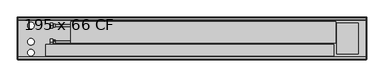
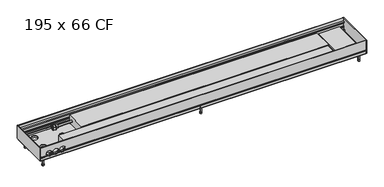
"""IFC4 building model written with IfcOpenShell, lengths in millimetres: proxy geometry, Mohlenhof_Внутрипольный конвектор_QSKM CF : 195 x 66 CF."""

from ifc_helpers import new_model, si_unit, point, frame, frame_2d, origin, place, context, project, spatial, polyline, circle_curve, ellipse_curve, trimmed, segment, composite_curve, outline, extrude, source, transform, mapped, element, save
from ifc_brep_helpers import plane_surface, cylinder_surface, revolved_surface, advanced_brep


def proxy_195_x_66_cf_feebd39c(model_context):
    return source(origin(), model_context, "Body", "SolidModel", [
        extrude(outline(composite_curve([segment(trimmed(circle_curve(frame_2d((0.0, -273.5)), 4.5), [point((-4.5, -273.5))], [point((4.5, -273.5))], False, "CARTESIAN"), True, "CONTINUOUS"), segment(trimmed(circle_curve(frame_2d((0.0, -273.5)), 4.5), [point((4.5, -273.5))], [point((-4.5, -273.5))], False, "CARTESIAN"), True, "CONTINUOUS")], self_intersect=False)), frame((0.0, 0.0, -110.0), z_axis=(0.0, 0.0, 1.0), x_axis=(1.0, 0.0, 0.0)), (0.0, 0.0, 1.0), 7.0),
        extrude(outline(composite_curve([segment(trimmed(circle_curve(frame_2d((0.0, -273.5)), 4.0), [point((-4.0, -273.5))], [point((4.0, -273.5))], False, "CARTESIAN"), True, "CONTINUOUS"), segment(trimmed(circle_curve(frame_2d((0.0, -273.5)), 4.0), [point((4.0, -273.5))], [point((-4.0, -273.5))], False, "CARTESIAN"), True, "CONTINUOUS")], self_intersect=False)), frame((0.0, 0.0, -103.0), z_axis=(0.0, 0.0, 1.0), x_axis=(1.0, 0.0, 0.0)), (0.0, 0.0, 1.0), 32.5),
        extrude(outline(composite_curve([segment(trimmed(circle_curve(frame_2d((0.0, -121.5)), 4.5), [point((-4.5, -121.5))], [point((4.5, -121.5))], False, "CARTESIAN"), True, "CONTINUOUS"), segment(trimmed(circle_curve(frame_2d((0.0, -121.5)), 4.5), [point((4.5, -121.5))], [point((-4.5, -121.5))], False, "CARTESIAN"), True, "CONTINUOUS")], self_intersect=False)), frame((0.0, 0.0, -110.0), z_axis=(0.0, 0.0, 1.0), x_axis=(1.0, 0.0, 0.0)), (0.0, 0.0, 1.0), 7.0),
        extrude(outline(composite_curve([segment(trimmed(circle_curve(frame_2d((0.0, -121.5)), 4.0), [point((-4.0, -121.5))], [point((4.0, -121.5))], False, "CARTESIAN"), True, "CONTINUOUS"), segment(trimmed(circle_curve(frame_2d((0.0, -121.5)), 4.0), [point((4.0, -121.5))], [point((-4.0, -121.5))], False, "CARTESIAN"), True, "CONTINUOUS")], self_intersect=False)), frame((0.0, 0.0, -103.0), z_axis=(0.0, 0.0, 1.0), x_axis=(1.0, 0.0, 0.0)), (0.0, 0.0, 1.0), 32.5),
        advanced_brep(
        [(-639.0, -213.0, -41.0), (-639.0, -201.0, -41.0), (-639.0, -225.0, -41.0), (-626.5, -220.5, -41.0), (-626.5, -205.5, -41.0), (-626.5, -213.0, -41.0), (-634.0, -220.5, -41.0), (-634.0, -205.5, -41.0)],
        [
            (0, 1),
            (1, 2, circle_curve(frame((-639.0, -213.0, -41.0), z_axis=(-1.0, 0.0, 0.0), x_axis=(0.0, 1.0, 0.0)), 12.0)),
            (2, 0),
            (2, 1, circle_curve(frame((-639.0, -213.0, -41.0), z_axis=(-1.0, 0.0, 0.0), x_axis=(0.0, 1.0, 0.0)), 12.0)),
            (3, 4, circle_curve(frame((-626.5, -213.0, -41.0), z_axis=(1.0, 0.0, 0.0), x_axis=(0.0, 1.0, 0.0)), 7.5)),
            (4, 5),
            (5, 3),
            (4, 3, circle_curve(frame((-626.5, -213.0, -41.0), z_axis=(1.0, 0.0, 0.0), x_axis=(0.0, 1.0, 0.0)), 7.5)),
            (6, 7, circle_curve(frame((-634.0, -213.0, -41.0), z_axis=(1.0, 0.0, 0.0), x_axis=(0.0, 1.0, 0.0)), 7.5)),
            (7, 4),
            (3, 6),
            (7, 6, circle_curve(frame((-634.0, -213.0, -41.0), z_axis=(1.0, 0.0, 0.0), x_axis=(0.0, 1.0, 0.0)), 7.5)),
            (1, 7),
            (6, 2),
        ],
        [
            plane_surface(frame((-639.0, -213.0, -41.0), z_axis=(-1.0, 0.0, 0.0), x_axis=(0.0, 1.0, 0.0))),
            plane_surface(frame((-626.5, -213.0, -41.0), z_axis=(1.0, 0.0, 0.0), x_axis=(0.0, 1.0, 0.0))),
            cylinder_surface(frame((-639.0, -213.0, -41.0), z_axis=(-1.0, 0.0, 0.0), x_axis=(0.0, 1.0, 0.0)), 7.5),
            revolved_surface(polyline([(-634.0, -205.5, -41.0), (-639.0, -201.0, -41.0)]), (-639.0, -213.0, -41.0), (-1.0, 0.0, 0.0)),
        ],
        [
            (0, [[1, 2, 3]]),
            (0, [[-3, 4, -1]]),
            (1, [[5, 6, 7]]),
            (1, [[8, -7, -6]]),
            (2, [[9, 10, -5, 11]]),
            (2, [[12, -11, -8, -10]]),
            (3, [[-2, 13, -9, 14]]),
            (3, [[-4, -14, -12, -13]]),
        ],
    ),
        extrude(outline(polyline([(-213.0, -27.1435935), (-201.0, -34.0717968), (-201.0, -47.9282032), (-213.0, -54.8564065), (-225.0, -47.9282032), (-225.0, -34.0717968), (-213.0, -27.1435935)]), holes=[composite_curve([segment(trimmed(circle_curve(frame_2d((-213.0, -41.0)), 8.5), [point((-204.5, -41.0))], [point((-221.5, -41.0))], True, "CARTESIAN"), True, "CONTINUOUS"), segment(trimmed(circle_curve(frame_2d((-213.0, -41.0)), 8.5), [point((-221.5, -41.0))], [point((-204.5, -41.0))], True, "CARTESIAN"), True, "CONTINUOUS")], self_intersect=False)]), frame((-650.0, 0.0, 0.0), z_axis=(1.0, 0.0, 0.0), x_axis=(0.0, 1.0, 0.0)), (0.0, 0.0, 1.0), 11.0),
        advanced_brep(
        [(-639.0, -138.0, -41.0), (-639.0, -126.0, -41.0), (-639.0, -150.0, -41.0), (-626.5, -145.5, -41.0), (-626.5, -130.5, -41.0), (-626.5, -138.0, -41.0), (-634.0, -145.5, -41.0), (-634.0, -130.5, -41.0)],
        [
            (0, 1),
            (1, 2, circle_curve(frame((-639.0, -138.0, -41.0), z_axis=(-1.0, 0.0, 0.0), x_axis=(0.0, 1.0, 0.0)), 12.0)),
            (2, 0),
            (2, 1, circle_curve(frame((-639.0, -138.0, -41.0), z_axis=(-1.0, 0.0, 0.0), x_axis=(0.0, 1.0, 0.0)), 12.0)),
            (3, 4, circle_curve(frame((-626.5, -138.0, -41.0), z_axis=(1.0, 0.0, 0.0), x_axis=(0.0, 1.0, 0.0)), 7.5)),
            (4, 5),
            (5, 3),
            (4, 3, circle_curve(frame((-626.5, -138.0, -41.0), z_axis=(1.0, 0.0, 0.0), x_axis=(0.0, 1.0, 0.0)), 7.5)),
            (6, 7, circle_curve(frame((-634.0, -138.0, -41.0), z_axis=(1.0, 0.0, 0.0), x_axis=(0.0, 1.0, 0.0)), 7.5)),
            (7, 4),
            (3, 6),
            (7, 6, circle_curve(frame((-634.0, -138.0, -41.0), z_axis=(1.0, 0.0, 0.0), x_axis=(0.0, 1.0, 0.0)), 7.5)),
            (1, 7),
            (6, 2),
        ],
        [
            plane_surface(frame((-639.0, -138.0, -41.0), z_axis=(-1.0, 0.0, 0.0), x_axis=(0.0, 1.0, 0.0))),
            plane_surface(frame((-626.5, -138.0, -41.0), z_axis=(1.0, 0.0, 0.0), x_axis=(0.0, 1.0, 0.0))),
            cylinder_surface(frame((-639.0, -138.0, -41.0), z_axis=(-1.0, 0.0, 0.0), x_axis=(0.0, 1.0, 0.0)), 7.5),
            revolved_surface(polyline([(-634.0, -130.5, -41.0), (-639.0, -126.0, -41.0)]), (-639.0, -138.0, -41.0), (-1.0, 0.0, 0.0)),
        ],
        [
            (0, [[1, 2, 3]]),
            (0, [[-3, 4, -1]]),
            (1, [[5, 6, 7]]),
            (1, [[8, -7, -6]]),
            (2, [[9, 10, -5, 11]]),
            (2, [[12, -11, -8, -10]]),
            (3, [[-2, 13, -9, 14]]),
            (3, [[-4, -14, -12, -13]]),
        ],
    ),
        extrude(outline(polyline([(-138.0, -27.1435935), (-126.0, -34.0717968), (-126.0, -47.9282032), (-138.0, -54.8564065), (-150.0, -47.9282032), (-150.0, -34.0717968), (-138.0, -27.1435935)]), holes=[composite_curve([segment(trimmed(circle_curve(frame_2d((-138.0, -41.0)), 8.5), [point((-129.5, -41.0))], [point((-146.5, -41.0))], True, "CARTESIAN"), True, "CONTINUOUS"), segment(trimmed(circle_curve(frame_2d((-138.0, -41.0)), 8.5), [point((-146.5, -41.0))], [point((-129.5, -41.0))], True, "CARTESIAN"), True, "CONTINUOUS")], self_intersect=False)]), frame((-650.0, 0.0, 0.0), z_axis=(1.0, 0.0, 0.0), x_axis=(0.0, 1.0, 0.0)), (0.0, 0.0, 1.0), 11.0),
        extrude(outline(composite_curve([segment(trimmed(circle_curve(frame_2d((-775.0, -273.5)), 4.5), [point((-779.5, -273.5))], [point((-770.5, -273.5))], False, "CARTESIAN"), True, "CONTINUOUS"), segment(trimmed(circle_curve(frame_2d((-775.0, -273.5)), 4.5), [point((-770.5, -273.5))], [point((-779.5, -273.5))], False, "CARTESIAN"), True, "CONTINUOUS")], self_intersect=False)), frame((0.0, 0.0, -110.0), z_axis=(0.0, 0.0, 1.0), x_axis=(1.0, 0.0, 0.0)), (0.0, 0.0, 1.0), 7.0),
        extrude(outline(composite_curve([segment(trimmed(circle_curve(frame_2d((-775.0, -273.5)), 4.0), [point((-779.0, -273.5))], [point((-771.0, -273.5))], False, "CARTESIAN"), True, "CONTINUOUS"), segment(trimmed(circle_curve(frame_2d((-775.0, -273.5)), 4.0), [point((-771.0, -273.5))], [point((-779.0, -273.5))], False, "CARTESIAN"), True, "CONTINUOUS")], self_intersect=False)), frame((0.0, 0.0, -103.0), z_axis=(0.0, 0.0, 1.0), x_axis=(1.0, 0.0, 0.0)), (0.0, 0.0, 1.0), 32.5),
        extrude(outline(composite_curve([segment(trimmed(circle_curve(frame_2d((-775.0, -121.5)), 4.5), [point((-779.5, -121.5))], [point((-770.5, -121.5))], False, "CARTESIAN"), True, "CONTINUOUS"), segment(trimmed(circle_curve(frame_2d((-775.0, -121.5)), 4.5), [point((-770.5, -121.5))], [point((-779.5, -121.5))], False, "CARTESIAN"), True, "CONTINUOUS")], self_intersect=False)), frame((0.0, 0.0, -110.0), z_axis=(0.0, 0.0, 1.0), x_axis=(1.0, 0.0, 0.0)), (0.0, 0.0, 1.0), 7.0),
        extrude(outline(composite_curve([segment(trimmed(circle_curve(frame_2d((-775.0, -121.5)), 4.0), [point((-779.0, -121.5))], [point((-771.0, -121.5))], False, "CARTESIAN"), True, "CONTINUOUS"), segment(trimmed(circle_curve(frame_2d((-775.0, -121.5)), 4.0), [point((-771.0, -121.5))], [point((-779.0, -121.5))], False, "CARTESIAN"), True, "CONTINUOUS")], self_intersect=False)), frame((0.0, 0.0, -103.0), z_axis=(0.0, 0.0, 1.0), x_axis=(1.0, 0.0, 0.0)), (0.0, 0.0, 1.0), 32.5),
        extrude(outline(composite_curve([segment(trimmed(circle_curve(frame_2d((775.0, -273.5)), 4.5), [point((770.5, -273.5))], [point((779.5, -273.5))], False, "CARTESIAN"), True, "CONTINUOUS"), segment(trimmed(circle_curve(frame_2d((775.0, -273.5)), 4.5), [point((779.5, -273.5))], [point((770.5, -273.5))], False, "CARTESIAN"), True, "CONTINUOUS")], self_intersect=False)), frame((0.0, 0.0, -110.0), z_axis=(0.0, 0.0, 1.0), x_axis=(1.0, 0.0, 0.0)), (0.0, 0.0, 1.0), 7.0),
        extrude(outline(composite_curve([segment(trimmed(circle_curve(frame_2d((775.0, -273.5)), 4.0), [point((771.0, -273.5))], [point((779.0, -273.5))], False, "CARTESIAN"), True, "CONTINUOUS"), segment(trimmed(circle_curve(frame_2d((775.0, -273.5)), 4.0), [point((779.0, -273.5))], [point((771.0, -273.5))], False, "CARTESIAN"), True, "CONTINUOUS")], self_intersect=False)), frame((0.0, 0.0, -103.0), z_axis=(0.0, 0.0, 1.0), x_axis=(1.0, 0.0, 0.0)), (0.0, 0.0, 1.0), 32.5),
        extrude(outline(composite_curve([segment(trimmed(circle_curve(frame_2d((775.0, -121.5)), 4.5), [point((770.5, -121.5))], [point((779.5, -121.5))], False, "CARTESIAN"), True, "CONTINUOUS"), segment(trimmed(circle_curve(frame_2d((775.0, -121.5)), 4.5), [point((779.5, -121.5))], [point((770.5, -121.5))], False, "CARTESIAN"), True, "CONTINUOUS")], self_intersect=False)), frame((0.0, 0.0, -110.0), z_axis=(0.0, 0.0, 1.0), x_axis=(1.0, 0.0, 0.0)), (0.0, 0.0, 1.0), 7.0),
        extrude(outline(composite_curve([segment(trimmed(circle_curve(frame_2d((775.0, -121.5)), 4.0), [point((771.0, -121.5))], [point((779.0, -121.5))], False, "CARTESIAN"), True, "CONTINUOUS"), segment(trimmed(circle_curve(frame_2d((775.0, -121.5)), 4.0), [point((779.0, -121.5))], [point((771.0, -121.5))], False, "CARTESIAN"), True, "CONTINUOUS")], self_intersect=False)), frame((0.0, 0.0, -103.0), z_axis=(0.0, 0.0, 1.0), x_axis=(1.0, 0.0, 0.0)), (0.0, 0.0, 1.0), 32.5),
        extrude(outline(polyline([(-62.5, 751.0), (-44.5, 751.0), (-44.5, 760.0), (-29.5, 760.0), (-29.5, 763.0), (-19.5, 763.0), (-19.5, 663.0), (-29.5, 663.0), (-29.5, 666.0), (-62.5, 666.0), (-62.5, 751.0)])), frame((0.0, -267.5, 0.0), z_axis=(0.0, 1.0, 0.0), x_axis=(0.0, 0.0, 1.0)), (0.0, 0.0, 1.0), 140.0),
        extrude(outline(polyline([(650.0, -225.87), (650.0, -277.18), (-670.0, -277.18), (-670.0, -225.87), (650.0, -225.87)])), frame((0.0, 0.0, -62.5), z_axis=(0.0, 0.0, 1.0), x_axis=(1.0, 0.0, 0.0)), (0.0, 0.0, 1.0), 43.62),
        extrude(outline(composite_curve([segment(trimmed(circle_curve(frame_2d((-213.0, -41.0)), 5.0), [point((-218.0, -41.0))], [point((-208.0, -41.0))], False, "CARTESIAN"), True, "CONTINUOUS"), segment(trimmed(circle_curve(frame_2d((-213.0, -41.0)), 5.0), [point((-208.0, -41.0))], [point((-218.0, -41.0))], False, "CARTESIAN"), True, "CONTINUOUS")], self_intersect=False)), frame((-650.0, 0.0, 0.0), z_axis=(1.0, 0.0, 0.0), x_axis=(0.0, 1.0, 0.0)), (0.0, 0.0, 1.0), 95.0),
        extrude(outline(composite_curve([segment(trimmed(circle_curve(frame_2d((-138.0, -41.0)), 5.0), [point((-143.0, -41.0))], [point((-133.0, -41.0))], False, "CARTESIAN"), True, "CONTINUOUS"), segment(trimmed(circle_curve(frame_2d((-138.0, -41.0)), 5.0), [point((-133.0, -41.0))], [point((-143.0, -41.0))], False, "CARTESIAN"), True, "CONTINUOUS")], self_intersect=False)), frame((-650.0, 0.0, 0.0), z_axis=(1.0, 0.0, 0.0), x_axis=(0.0, 1.0, 0.0)), (0.0, 0.0, 1.0), 95.0),
        advanced_brep(
        [(798.0, -295.0, -48.5473602), (798.0, -293.5, -49.2468216), (798.0, -292.5, -49.2468216), (798.0, -292.5, -46.0008038), (798.0, -290.0, -46.0008038), (798.0, -290.0, -56.5008038), (798.0, -292.5, -56.5008038), (798.0, -292.5, -53.2468216), (798.0, -293.5, -53.2468216), (798.0, -295.0, -53.9462831), (798.0, -295.0, -66.5), (798.0, -291.0, -66.5), (798.0, -291.0, -65.2), (798.0, -293.0, -65.2), (798.0, -293.0, -62.5), (798.0, -282.0, -62.5), (798.0, -282.0, -54.9172677), (798.0, -283.4172677, -53.5), (798.0, -287.0, -53.5), (798.0, -287.0, -45.91), (798.0, -289.0, -43.91), (798.0, -289.0, -39.5), (798.0, -290.0, -39.5), (798.0, -290.0, -43.5), (798.0, -292.4956439, -43.5), (798.0, -292.4956439, -23.0), (798.0, -290.0, -23.0), (798.0, -290.0, -27.0), (798.0, -289.0, -27.0), (798.0, -289.0, -17.0), (798.0, -283.3956439, -17.0), (798.0, -283.3956439, -15.0), (798.0, -293.4, -15.0), (798.0, -293.4, 0.0), (798.0, -295.0, 0.0), (-798.0, -295.0, -48.5473602), (-798.0, -295.0, 0.0), (-798.0, -293.4, 0.0), (-798.0, -293.4, -15.0), (-798.0, -283.3956439, -15.0), (-798.0, -283.3956439, -17.0), (-798.0, -289.0, -17.0), (-798.0, -289.0, -27.0), (-798.0, -290.0, -27.0), (-798.0, -290.0, -23.0), (-798.0, -292.4956439, -23.0), (-798.0, -292.4956439, -43.5), (-798.0, -290.0, -43.5), (-798.0, -290.0, -39.5), (-798.0, -289.0, -39.5), (-798.0, -289.0, -43.91), (-798.0, -287.0, -45.91), (-798.0, -287.0, -53.5), (-798.0, -283.4172677, -53.5), (-798.0, -282.0, -54.9172677), (-798.0, -282.0, -62.5), (-798.0, -293.0, -62.5), (-798.0, -293.0, -65.2), (-798.0, -291.0, -65.2), (-798.0, -291.0, -66.5), (-798.0, -295.0, -66.5), (-798.0, -295.0, -53.9462831), (-798.0, -293.5, -53.2468216), (-798.0, -292.5, -53.2468216), (-798.0, -292.5, -56.5008038), (-798.0, -290.0, -56.5008038), (-798.0, -290.0, -46.0008038), (-798.0, -292.5, -46.0008038), (-798.0, -292.5, -49.2468216), (-798.0, -293.5, -49.2468216), (-678.7585985, -295.0, -48.5473602), (-679.155283, -293.5, -49.2468216), (-770.844717, -293.5, -49.2468216), (-771.2414015, -295.0, -48.5473602), (-738.2414015, -295.0, -48.5473602), (-744.7585985, -295.0, -48.5473602), (-745.155283, -293.5, -49.2468216), (-737.844717, -293.5, -49.2468216), (-705.2414015, -295.0, -48.5473602), (-711.7585985, -295.0, -48.5473602), (-712.155283, -293.5, -49.2468216), (-704.844717, -293.5, -49.2468216), (-679.155283, -292.5, -49.2468216), (-770.844717, -292.5, -49.2468216), (-745.155283, -292.5, -49.2468216), (-737.844717, -292.5, -49.2468216), (-712.155283, -292.5, -49.2468216), (-704.844717, -292.5, -49.2468216), (-677.6911648, -292.5, -46.0008038), (-772.3088352, -292.5, -46.0008038), (-743.6911648, -292.5, -46.0008038), (-739.3088352, -292.5, -46.0008038), (-710.6911648, -292.5, -46.0008038), (-706.3088352, -292.5, -46.0008038), (-677.6911648, -290.0, -46.0008038), (-772.3088352, -290.0, -46.0008038), (-743.6911648, -290.0, -46.0008038), (-739.3088352, -290.0, -46.0008038), (-710.6911648, -290.0, -46.0008038), (-706.3088352, -290.0, -46.0008038), (-767.328032, -292.5, -53.2468216), (-748.671968, -292.5, -53.2468216), (-734.328032, -292.5, -53.2468216), (-715.671968, -292.5, -53.2468216), (-701.328032, -292.5, -53.2468216), (-682.671968, -292.5, -53.2468216), (-682.671968, -293.5, -53.2468216), (-767.328032, -293.5, -53.2468216), (-748.671968, -293.5, -53.2468216), (-734.328032, -293.5, -53.2468216), (-715.671968, -293.5, -53.2468216), (-701.328032, -293.5, -53.2468216), (-683.6280208, -295.0, -53.9462831), (-766.3719792, -295.0, -53.9462831), (-749.6280208, -295.0, -53.9462831), (-733.3719792, -295.0, -53.9462831), (-716.6280208, -295.0, -53.9462831), (-700.3719792, -295.0, -53.9462831), (-764.7064841, -282.0, -54.9172677), (-751.2935159, -282.0, -54.9172677), (-731.7064841, -282.0, -54.9172677), (-718.2935159, -282.0, -54.9172677), (-698.7064841, -282.0, -54.9172677), (-685.2935159, -282.0, -54.9172677), (-683.0, -283.4172677, -53.5), (-767.0, -283.4172677, -53.5), (-749.0, -283.4172677, -53.5), (-734.0, -283.4172677, -53.5), (-716.0, -283.4172677, -53.5), (-701.0, -283.4172677, -53.5), (-683.0, -287.0, -53.5), (-767.0, -287.0, -53.5), (-749.0, -287.0, -53.5), (-734.0, -287.0, -53.5), (-716.0, -287.0, -53.5), (-701.0, -287.0, -53.5), (-677.6629187, -287.0, -45.91), (-772.3370813, -287.0, -45.91), (-743.6629187, -287.0, -45.91), (-739.3370813, -287.0, -45.91), (-710.6629187, -287.0, -45.91), (-706.3370813, -287.0, -45.91), (-677.1948691, -289.0, -43.91), (-772.8051309, -289.0, -43.91), (-743.1948691, -289.0, -43.91), (-739.8051309, -289.0, -43.91), (-710.1948691, -289.0, -43.91), (-706.8051309, -289.0, -43.91), (-677.0, -289.0, -41.5), (-677.1339313, -289.0, -39.5), (-772.8660687, -289.0, -39.5), (-773.0, -289.0, -41.5), (-743.0, -289.0, -41.5), (-743.1339313, -289.0, -39.5), (-739.8660687, -289.0, -39.5), (-740.0, -289.0, -41.5), (-710.0, -289.0, -41.5), (-710.1339313, -289.0, -39.5), (-706.8660687, -289.0, -39.5), (-707.0, -289.0, -41.5), (-677.1339313, -290.0, -39.5), (-772.8660687, -290.0, -39.5), (-743.1339313, -290.0, -39.5), (-739.8660687, -290.0, -39.5), (-710.1339313, -290.0, -39.5), (-706.8660687, -290.0, -39.5), (-677.0, -290.0, -41.5), (-677.1339313, -290.0, -43.5), (-772.8660687, -290.0, -43.5), (-773.0, -290.0, -41.5), (-743.0, -290.0, -41.5), (-743.1339313, -290.0, -43.5), (-739.8660687, -290.0, -43.5), (-740.0, -290.0, -41.5), (-710.0, -290.0, -41.5), (-710.1339313, -290.0, -43.5), (-706.8660687, -290.0, -43.5), (-707.0, -290.0, -41.5), (-677.1339313, -292.4956439, -43.5), (-772.8660687, -292.4956439, -43.5), (-743.1339313, -292.4956439, -43.5), (-739.8660687, -292.4956439, -43.5), (-710.1339313, -292.4956439, -43.5), (-706.8660687, -292.4956439, -43.5), (-677.0, -292.4956439, -41.5), (-707.0, -292.4956439, -41.5), (-710.0, -292.4956439, -41.5), (-740.0, -292.4956439, -41.5), (-743.0, -292.4956439, -41.5), (-773.0, -292.4956439, -41.5), (-761.8405729, -290.0, -27.0), (-754.1594271, -290.0, -27.0), (-728.8405729, -290.0, -27.0), (-721.1594271, -290.0, -27.0), (-695.8405729, -290.0, -27.0), (-688.1594271, -290.0, -27.0), (-688.1594271, -289.0, -27.0), (-761.8405729, -289.0, -27.0), (-754.1594271, -289.0, -27.0), (-728.8405729, -289.0, -27.0), (-721.1594271, -289.0, -27.0), (-695.8405729, -289.0, -27.0), (-773.0, -295.0, -41.5), (-743.0, -295.0, -41.5), (-740.0, -295.0, -41.5), (-710.0, -295.0, -41.5), (-707.0, -295.0, -41.5), (-677.0, -295.0, -41.5)],
        [
            (0, 1),
            (1, 2),
            (2, 3),
            (3, 4),
            (4, 5),
            (5, 6),
            (6, 7),
            (7, 8),
            (8, 9),
            (9, 10),
            (10, 11),
            (11, 12),
            (12, 13),
            (13, 14),
            (14, 15),
            (15, 16),
            (16, 17),
            (17, 18),
            (18, 19),
            (19, 20),
            (20, 21),
            (21, 22),
            (22, 23),
            (23, 24),
            (24, 25),
            (25, 26),
            (26, 27),
            (27, 28),
            (28, 29),
            (29, 30),
            (30, 31),
            (31, 32),
            (32, 33),
            (33, 34),
            (34, 0),
            (35, 36),
            (36, 37),
            (37, 38),
            (38, 39),
            (39, 40),
            (40, 41),
            (41, 42),
            (42, 43),
            (43, 44),
            (44, 45),
            (45, 46),
            (46, 47),
            (47, 48),
            (48, 49),
            (49, 50),
            (50, 51),
            (51, 52),
            (52, 53),
            (53, 54),
            (54, 55),
            (55, 56),
            (56, 57),
            (57, 58),
            (58, 59),
            (59, 60),
            (60, 61),
            (61, 62),
            (62, 63),
            (63, 64),
            (64, 65),
            (65, 66),
            (66, 67),
            (67, 68),
            (68, 69),
            (69, 35),
            (0, 70),
            (70, 71, ellipse_curve(frame((-692.0, -310.1131126, -41.5), z_axis=(0.0, 0.42261826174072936, 0.9063077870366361), x_axis=(0.0, -0.906307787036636, 0.4226182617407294)), 35.4930237, 15.0)),
            (71, 1),
            (69, 72),
            (72, 73, ellipse_curve(frame((-758.0, -310.1131126, -41.5), z_axis=(0.0, 0.42261826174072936, 0.9063077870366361), x_axis=(0.0, -0.906307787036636, 0.4226182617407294)), 35.4930237, 15.0)),
            (73, 35),
            (74, 75),
            (75, 76, ellipse_curve(frame((-758.0, -310.1131126, -41.5), z_axis=(0.0, 0.42261826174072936, 0.9063077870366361), x_axis=(0.0, -0.906307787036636, 0.4226182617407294)), 35.4930237, 15.0)),
            (76, 77),
            (77, 74, ellipse_curve(frame((-725.0, -310.1131126, -41.5), z_axis=(0.0, 0.42261826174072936, 0.9063077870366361), x_axis=(0.0, -0.906307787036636, 0.4226182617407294)), 35.4930237, 15.0)),
            (78, 79),
            (79, 80, ellipse_curve(frame((-725.0, -310.1131126, -41.5), z_axis=(0.0, 0.42261826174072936, 0.9063077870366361), x_axis=(0.0, -0.906307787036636, 0.4226182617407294)), 35.4930237, 15.0)),
            (80, 81),
            (81, 78, ellipse_curve(frame((-692.0, -310.1131126, -41.5), z_axis=(0.0, 0.42261826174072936, 0.9063077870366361), x_axis=(0.0, -0.906307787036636, 0.4226182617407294)), 35.4930237, 15.0)),
            (71, 82),
            (82, 2),
            (68, 83),
            (83, 72),
            (76, 84),
            (84, 85),
            (85, 77),
            (80, 86),
            (86, 87),
            (87, 81),
            (82, 88, circle_curve(frame((-692.0, -292.5, -41.5), z_axis=(0.0, -1.0, 0.0), x_axis=(1.0, 0.0, 0.0)), 15.0)),
            (88, 3),
            (67, 89),
            (89, 83, circle_curve(frame((-758.0, -292.5, -41.5), z_axis=(0.0, -1.0, 0.0), x_axis=(1.0, 0.0, 0.0)), 15.0)),
            (84, 90, circle_curve(frame((-758.0, -292.5, -41.5), z_axis=(0.0, -1.0, 0.0), x_axis=(1.0, 0.0, 0.0)), 15.0)),
            (90, 91),
            (91, 85, circle_curve(frame((-725.0, -292.5, -41.5), z_axis=(0.0, -1.0, 0.0), x_axis=(1.0, 0.0, 0.0)), 15.0)),
            (86, 92, circle_curve(frame((-725.0, -292.5, -41.5), z_axis=(0.0, -1.0, 0.0), x_axis=(1.0, 0.0, 0.0)), 15.0)),
            (92, 93),
            (93, 87, circle_curve(frame((-692.0, -292.5, -41.5), z_axis=(0.0, -1.0, 0.0), x_axis=(1.0, 0.0, 0.0)), 15.0)),
            (88, 94),
            (94, 4),
            (66, 95),
            (95, 89),
            (90, 96),
            (96, 97),
            (97, 91),
            (92, 98),
            (98, 99),
            (99, 93),
            (94, 99, circle_curve(frame((-692.0, -290.0, -41.5), z_axis=(0.0, 1.0, 0.0), x_axis=(1.0, 0.0, 0.0)), 15.0)),
            (98, 97, circle_curve(frame((-725.0, -290.0, -41.5), z_axis=(0.0, 1.0, 0.0), x_axis=(1.0, 0.0, 0.0)), 15.0)),
            (96, 95, circle_curve(frame((-758.0, -290.0, -41.5), z_axis=(0.0, 1.0, 0.0), x_axis=(1.0, 0.0, 0.0)), 15.0)),
            (65, 5),
            (64, 6),
            (63, 100),
            (100, 101, circle_curve(frame((-758.0, -292.5, -41.5), z_axis=(0.0, -1.0, 0.0), x_axis=(1.0, 0.0, 0.0)), 15.0)),
            (101, 102),
            (102, 103, circle_curve(frame((-725.0, -292.5, -41.5), z_axis=(0.0, -1.0, 0.0), x_axis=(1.0, 0.0, 0.0)), 15.0)),
            (103, 104),
            (104, 105, circle_curve(frame((-692.0, -292.5, -41.5), z_axis=(0.0, -1.0, 0.0), x_axis=(1.0, 0.0, 0.0)), 15.0)),
            (105, 7),
            (105, 106),
            (106, 8),
            (62, 107),
            (107, 100),
            (101, 108),
            (108, 109),
            (109, 102),
            (103, 110),
            (110, 111),
            (111, 104),
            (106, 112, ellipse_curve(frame((-692.0, -268.3088597, -41.5), z_axis=(0.0, 0.4226182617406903, -0.9063077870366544), x_axis=(0.0, -0.9063077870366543, -0.42261826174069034)), 35.4930237, 15.0)),
            (112, 9),
            (61, 113),
            (113, 107, ellipse_curve(frame((-758.0, -268.3088597, -41.5), z_axis=(0.0, 0.4226182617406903, -0.9063077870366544), x_axis=(0.0, -0.9063077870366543, -0.42261826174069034)), 35.4930237, 15.0)),
            (108, 114, ellipse_curve(frame((-758.0, -268.3088597, -41.5), z_axis=(0.0, 0.4226182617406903, -0.9063077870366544), x_axis=(0.0, -0.9063077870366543, -0.42261826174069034)), 35.4930237, 15.0)),
            (114, 115),
            (115, 109, ellipse_curve(frame((-725.0, -268.3088597, -41.5), z_axis=(0.0, 0.4226182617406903, -0.9063077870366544), x_axis=(0.0, -0.9063077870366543, -0.42261826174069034)), 35.4930237, 15.0)),
            (110, 116, ellipse_curve(frame((-725.0, -268.3088597, -41.5), z_axis=(0.0, 0.4226182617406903, -0.9063077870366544), x_axis=(0.0, -0.9063077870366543, -0.42261826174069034)), 35.4930237, 15.0)),
            (116, 117),
            (117, 111, ellipse_curve(frame((-692.0, -268.3088597, -41.5), z_axis=(0.0, 0.4226182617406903, -0.9063077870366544), x_axis=(0.0, -0.9063077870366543, -0.42261826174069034)), 35.4930237, 15.0)),
            (112, 117, circle_curve(frame((-692.0, -295.0, -41.5), z_axis=(0.0, 1.0, 0.0), x_axis=(1.0, 0.0, 0.0)), 15.0)),
            (116, 115, circle_curve(frame((-725.0, -295.0, -41.5), z_axis=(0.0, 1.0, 0.0), x_axis=(1.0, 0.0, 0.0)), 15.0)),
            (114, 113, circle_curve(frame((-758.0, -295.0, -41.5), z_axis=(0.0, 1.0, 0.0), x_axis=(1.0, 0.0, 0.0)), 15.0)),
            (60, 10),
            (59, 11),
            (58, 12),
            (57, 13),
            (56, 14),
            (55, 15),
            (54, 118),
            (118, 119, circle_curve(frame((-758.0, -282.0, -41.5), z_axis=(0.0, -1.0, 0.0), x_axis=(1.0, 0.0, 0.0)), 15.0)),
            (119, 120),
            (120, 121, circle_curve(frame((-725.0, -282.0, -41.5), z_axis=(0.0, -1.0, 0.0), x_axis=(1.0, 0.0, 0.0)), 15.0)),
            (121, 122),
            (122, 123, circle_curve(frame((-692.0, -282.0, -41.5), z_axis=(0.0, -1.0, 0.0), x_axis=(1.0, 0.0, 0.0)), 15.0)),
            (123, 16),
            (123, 124, ellipse_curve(frame((-692.0, -295.4172677, -41.5), z_axis=(0.0, -0.7071067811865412, -0.7071067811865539), x_axis=(0.0, -0.7071067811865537, 0.7071067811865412)), 21.2132034, 15.0)),
            (124, 17),
            (53, 125),
            (125, 118, ellipse_curve(frame((-758.0, -295.4172677, -41.5), z_axis=(0.0, -0.7071067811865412, -0.7071067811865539), x_axis=(0.0, -0.7071067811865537, 0.7071067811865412)), 21.2132034, 15.0)),
            (119, 126, ellipse_curve(frame((-758.0, -295.4172677, -41.5), z_axis=(0.0, -0.7071067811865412, -0.7071067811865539), x_axis=(0.0, -0.7071067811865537, 0.7071067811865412)), 21.2132034, 15.0)),
            (126, 127),
            (127, 120, ellipse_curve(frame((-725.0, -295.4172677, -41.5), z_axis=(0.0, -0.7071067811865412, -0.7071067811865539), x_axis=(0.0, -0.7071067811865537, 0.7071067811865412)), 21.2132034, 15.0)),
            (121, 128, ellipse_curve(frame((-725.0, -295.4172677, -41.5), z_axis=(0.0, -0.7071067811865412, -0.7071067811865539), x_axis=(0.0, -0.7071067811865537, 0.7071067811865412)), 21.2132034, 15.0)),
            (128, 129),
            (129, 122, ellipse_curve(frame((-692.0, -295.4172677, -41.5), z_axis=(0.0, -0.7071067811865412, -0.7071067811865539), x_axis=(0.0, -0.7071067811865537, 0.7071067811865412)), 21.2132034, 15.0)),
            (124, 130),
            (130, 18),
            (52, 131),
            (131, 125),
            (126, 132),
            (132, 133),
            (133, 127),
            (128, 134),
            (134, 135),
            (135, 129),
            (130, 136, circle_curve(frame((-692.0, -287.0, -41.5), z_axis=(0.0, -1.0, 0.0), x_axis=(1.0, 0.0, 0.0)), 15.0)),
            (136, 19),
            (51, 137),
            (137, 131, circle_curve(frame((-758.0, -287.0, -41.5), z_axis=(0.0, -1.0, 0.0), x_axis=(1.0, 0.0, 0.0)), 15.0)),
            (132, 138, circle_curve(frame((-758.0, -287.0, -41.5), z_axis=(0.0, -1.0, 0.0), x_axis=(1.0, 0.0, 0.0)), 15.0)),
            (138, 139),
            (139, 133, circle_curve(frame((-725.0, -287.0, -41.5), z_axis=(0.0, -1.0, 0.0), x_axis=(1.0, 0.0, 0.0)), 15.0)),
            (134, 140, circle_curve(frame((-725.0, -287.0, -41.5), z_axis=(0.0, -1.0, 0.0), x_axis=(1.0, 0.0, 0.0)), 15.0)),
            (140, 141),
            (141, 135, circle_curve(frame((-692.0, -287.0, -41.5), z_axis=(0.0, -1.0, 0.0), x_axis=(1.0, 0.0, 0.0)), 15.0)),
            (136, 142, ellipse_curve(frame((-692.0, -291.41, -41.5), z_axis=(0.0, -0.7071067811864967, -0.7071067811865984), x_axis=(0.0, -0.7071067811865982, 0.7071067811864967)), 21.2132034, 15.0)),
            (142, 20),
            (50, 143),
            (143, 137, ellipse_curve(frame((-758.0, -291.41, -41.5), z_axis=(0.0, -0.7071067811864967, -0.7071067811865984), x_axis=(0.0, -0.7071067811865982, 0.7071067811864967)), 21.2132034, 15.0)),
            (138, 144, ellipse_curve(frame((-758.0, -291.41, -41.5), z_axis=(0.0, -0.7071067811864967, -0.7071067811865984), x_axis=(0.0, -0.7071067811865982, 0.7071067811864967)), 21.2132034, 15.0)),
            (144, 145),
            (145, 139, ellipse_curve(frame((-725.0, -291.41, -41.5), z_axis=(0.0, -0.7071067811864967, -0.7071067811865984), x_axis=(0.0, -0.7071067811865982, 0.7071067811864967)), 21.2132034, 15.0)),
            (140, 146, ellipse_curve(frame((-725.0, -291.41, -41.5), z_axis=(0.0, -0.7071067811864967, -0.7071067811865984), x_axis=(0.0, -0.7071067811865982, 0.7071067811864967)), 21.2132034, 15.0)),
            (146, 147),
            (147, 141, ellipse_curve(frame((-692.0, -291.41, -41.5), z_axis=(0.0, -0.7071067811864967, -0.7071067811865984), x_axis=(0.0, -0.7071067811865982, 0.7071067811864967)), 21.2132034, 15.0)),
            (142, 148, circle_curve(frame((-692.0, -289.0, -41.5), z_axis=(0.0, -1.0, 0.0), x_axis=(1.0, 0.0, 0.0)), 15.0)),
            (148, 149, circle_curve(frame((-692.0, -289.0, -41.5), z_axis=(0.0, -1.0, 0.0), x_axis=(1.0, 0.0, 0.0)), 15.0)),
            (149, 21),
            (49, 150),
            (150, 151, circle_curve(frame((-758.0, -289.0, -41.5), z_axis=(0.0, -1.0, 0.0), x_axis=(1.0, 0.0, 0.0)), 15.0)),
            (151, 143, circle_curve(frame((-758.0, -289.0, -41.5), z_axis=(0.0, -1.0, 0.0), x_axis=(1.0, 0.0, 0.0)), 15.0)),
            (144, 152, circle_curve(frame((-758.0, -289.0, -41.5), z_axis=(0.0, -1.0, 0.0), x_axis=(1.0, 0.0, 0.0)), 15.0)),
            (152, 153, circle_curve(frame((-758.0, -289.0, -41.5), z_axis=(0.0, -1.0, 0.0), x_axis=(1.0, 0.0, 0.0)), 15.0)),
            (153, 154),
            (154, 155, circle_curve(frame((-725.0, -289.0, -41.5), z_axis=(0.0, -1.0, 0.0), x_axis=(1.0, 0.0, 0.0)), 15.0)),
            (155, 145, circle_curve(frame((-725.0, -289.0, -41.5), z_axis=(0.0, -1.0, 0.0), x_axis=(1.0, 0.0, 0.0)), 15.0)),
            (146, 156, circle_curve(frame((-725.0, -289.0, -41.5), z_axis=(0.0, -1.0, 0.0), x_axis=(1.0, 0.0, 0.0)), 15.0)),
            (156, 157, circle_curve(frame((-725.0, -289.0, -41.5), z_axis=(0.0, -1.0, 0.0), x_axis=(1.0, 0.0, 0.0)), 15.0)),
            (157, 158),
            (158, 159, circle_curve(frame((-692.0, -289.0, -41.5), z_axis=(0.0, -1.0, 0.0), x_axis=(1.0, 0.0, 0.0)), 15.0)),
            (159, 147, circle_curve(frame((-692.0, -289.0, -41.5), z_axis=(0.0, -1.0, 0.0), x_axis=(1.0, 0.0, 0.0)), 15.0)),
            (149, 160),
            (160, 22),
            (48, 161),
            (161, 150),
            (153, 162),
            (162, 163),
            (163, 154),
            (157, 164),
            (164, 165),
            (165, 158),
            (160, 166, circle_curve(frame((-692.0, -290.0, -41.5), z_axis=(0.0, 1.0, 0.0), x_axis=(1.0, 0.0, 0.0)), 15.0)),
            (166, 167, circle_curve(frame((-692.0, -290.0, -41.5), z_axis=(0.0, 1.0, 0.0), x_axis=(1.0, 0.0, 0.0)), 15.0)),
            (167, 23),
            (47, 168),
            (168, 169, circle_curve(frame((-758.0, -290.0, -41.5), z_axis=(0.0, 1.0, 0.0), x_axis=(1.0, 0.0, 0.0)), 15.0)),
            (169, 161, circle_curve(frame((-758.0, -290.0, -41.5), z_axis=(0.0, 1.0, 0.0), x_axis=(1.0, 0.0, 0.0)), 15.0)),
            (162, 170, circle_curve(frame((-758.0, -290.0, -41.5), z_axis=(0.0, 1.0, 0.0), x_axis=(1.0, 0.0, 0.0)), 15.0)),
            (170, 171, circle_curve(frame((-758.0, -290.0, -41.5), z_axis=(0.0, 1.0, 0.0), x_axis=(1.0, 0.0, 0.0)), 15.0)),
            (171, 172),
            (172, 173, circle_curve(frame((-725.0, -290.0, -41.5), z_axis=(0.0, 1.0, 0.0), x_axis=(1.0, 0.0, 0.0)), 15.0)),
            (173, 163, circle_curve(frame((-725.0, -290.0, -41.5), z_axis=(0.0, 1.0, 0.0), x_axis=(1.0, 0.0, 0.0)), 15.0)),
            (164, 174, circle_curve(frame((-725.0, -290.0, -41.5), z_axis=(0.0, 1.0, 0.0), x_axis=(1.0, 0.0, 0.0)), 15.0)),
            (174, 175, circle_curve(frame((-725.0, -290.0, -41.5), z_axis=(0.0, 1.0, 0.0), x_axis=(1.0, 0.0, 0.0)), 15.0)),
            (175, 176),
            (176, 177, circle_curve(frame((-692.0, -290.0, -41.5), z_axis=(0.0, 1.0, 0.0), x_axis=(1.0, 0.0, 0.0)), 15.0)),
            (177, 165, circle_curve(frame((-692.0, -290.0, -41.5), z_axis=(0.0, 1.0, 0.0), x_axis=(1.0, 0.0, 0.0)), 15.0)),
            (167, 178),
            (178, 24),
            (46, 179),
            (179, 168),
            (171, 180),
            (180, 181),
            (181, 172),
            (175, 182),
            (182, 183),
            (183, 176),
            (178, 184, circle_curve(frame((-692.0, -292.4956439, -41.5), z_axis=(0.0, -1.0, 0.0), x_axis=(1.0, 0.0, 0.0)), 15.0)),
            (184, 185, circle_curve(frame((-692.0, -292.4956439, -41.5), z_axis=(0.0, -1.0, 0.0), x_axis=(1.0, 0.0, 0.0)), 15.0)),
            (185, 183, circle_curve(frame((-692.0, -292.4956439, -41.5), z_axis=(0.0, -1.0, 0.0), x_axis=(1.0, 0.0, 0.0)), 15.0)),
            (182, 186, circle_curve(frame((-725.0, -292.4956439, -41.5), z_axis=(0.0, -1.0, 0.0), x_axis=(1.0, 0.0, 0.0)), 15.0)),
            (186, 187, circle_curve(frame((-725.0, -292.4956439, -41.5), z_axis=(0.0, -1.0, 0.0), x_axis=(1.0, 0.0, 0.0)), 15.0)),
            (187, 181, circle_curve(frame((-725.0, -292.4956439, -41.5), z_axis=(0.0, -1.0, 0.0), x_axis=(1.0, 0.0, 0.0)), 15.0)),
            (180, 188, circle_curve(frame((-758.0, -292.4956439, -41.5), z_axis=(0.0, -1.0, 0.0), x_axis=(1.0, 0.0, 0.0)), 15.0)),
            (188, 189, circle_curve(frame((-758.0, -292.4956439, -41.5), z_axis=(0.0, -1.0, 0.0), x_axis=(1.0, 0.0, 0.0)), 15.0)),
            (189, 179, circle_curve(frame((-758.0, -292.4956439, -41.5), z_axis=(0.0, -1.0, 0.0), x_axis=(1.0, 0.0, 0.0)), 15.0)),
            (45, 25),
            (44, 26),
            (43, 190),
            (190, 191, circle_curve(frame((-758.0, -290.0, -41.5), z_axis=(0.0, 1.0, 0.0), x_axis=(1.0, 0.0, 0.0)), 15.0)),
            (191, 192),
            (192, 193, circle_curve(frame((-725.0, -290.0, -41.5), z_axis=(0.0, 1.0, 0.0), x_axis=(1.0, 0.0, 0.0)), 15.0)),
            (193, 194),
            (194, 195, circle_curve(frame((-692.0, -290.0, -41.5), z_axis=(0.0, 1.0, 0.0), x_axis=(1.0, 0.0, 0.0)), 15.0)),
            (195, 27),
            (195, 196),
            (196, 28),
            (42, 197),
            (197, 190),
            (191, 198),
            (198, 199),
            (199, 192),
            (193, 200),
            (200, 201),
            (201, 194),
            (196, 201, circle_curve(frame((-692.0, -289.0, -41.5), z_axis=(0.0, -1.0, 0.0), x_axis=(1.0, 0.0, 0.0)), 15.0)),
            (200, 199, circle_curve(frame((-725.0, -289.0, -41.5), z_axis=(0.0, -1.0, 0.0), x_axis=(1.0, 0.0, 0.0)), 15.0)),
            (198, 197, circle_curve(frame((-758.0, -289.0, -41.5), z_axis=(0.0, -1.0, 0.0), x_axis=(1.0, 0.0, 0.0)), 15.0)),
            (41, 29),
            (40, 30),
            (39, 31),
            (38, 32),
            (37, 33),
            (36, 34),
            (73, 202, circle_curve(frame((-758.0, -295.0, -41.5), z_axis=(0.0, 1.0, 0.0), x_axis=(1.0, 0.0, 0.0)), 15.0)),
            (202, 203, circle_curve(frame((-758.0, -295.0, -41.5), z_axis=(0.0, 1.0, 0.0), x_axis=(1.0, 0.0, 0.0)), 15.0)),
            (203, 75, circle_curve(frame((-758.0, -295.0, -41.5), z_axis=(0.0, 1.0, 0.0), x_axis=(1.0, 0.0, 0.0)), 15.0)),
            (74, 204, circle_curve(frame((-725.0, -295.0, -41.5), z_axis=(0.0, 1.0, 0.0), x_axis=(1.0, 0.0, 0.0)), 15.0)),
            (204, 205, circle_curve(frame((-725.0, -295.0, -41.5), z_axis=(0.0, 1.0, 0.0), x_axis=(1.0, 0.0, 0.0)), 15.0)),
            (205, 79, circle_curve(frame((-725.0, -295.0, -41.5), z_axis=(0.0, 1.0, 0.0), x_axis=(1.0, 0.0, 0.0)), 15.0)),
            (78, 206, circle_curve(frame((-692.0, -295.0, -41.5), z_axis=(0.0, 1.0, 0.0), x_axis=(1.0, 0.0, 0.0)), 15.0)),
            (206, 207, circle_curve(frame((-692.0, -295.0, -41.5), z_axis=(0.0, 1.0, 0.0), x_axis=(1.0, 0.0, 0.0)), 15.0)),
            (207, 70, circle_curve(frame((-692.0, -295.0, -41.5), z_axis=(0.0, 1.0, 0.0), x_axis=(1.0, 0.0, 0.0)), 15.0)),
            (151, 169),
            (189, 202),
            (203, 188),
            (170, 152),
            (155, 173),
            (187, 204),
            (205, 186),
            (174, 156),
            (159, 177),
            (185, 206),
            (207, 184),
            (166, 148),
        ],
        [
            plane_surface(frame((798.0, -293.0, -62.5), z_axis=(1.0, 0.0, 0.0), x_axis=(0.0, 0.0, 1.0))),
            plane_surface(frame((-798.0, -293.0, -62.5), z_axis=(-1.0, 0.0, 0.0), x_axis=(0.0, 0.0, 1.0))),
            plane_surface(frame((798.0, -295.0, -48.5473602), z_axis=(0.0, -0.42261826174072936, -0.9063077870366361), x_axis=(-1.0, 0.0, 0.0))),
            plane_surface(frame((798.0, -293.5, -49.2468216), z_axis=(0.0, 0.0, -1.0), x_axis=(-1.0, 0.0, 0.0))),
            plane_surface(frame((798.0, -292.5, -49.2468216), z_axis=(0.0, 1.0, 0.0), x_axis=(-1.0, 0.0, 0.0))),
            plane_surface(frame((798.0, -292.5, -46.0008038), z_axis=(0.0, 0.0, -1.0), x_axis=(-1.0, 0.0, 0.0))),
            plane_surface(frame((798.0, -290.0, -46.0008038), z_axis=(0.0, -1.0, 0.0), x_axis=(-1.0, 0.0, 0.0))),
            plane_surface(frame((798.0, -290.0, -56.5008038), z_axis=(0.0, 0.0, 1.0), x_axis=(-1.0, 0.0, 0.0))),
            plane_surface(frame((798.0, -292.5, -56.5008038), z_axis=(0.0, 1.0, 0.0), x_axis=(-1.0, 0.0, 0.0))),
            plane_surface(frame((798.0, -292.5, -53.2468216), z_axis=(0.0, 0.0, 1.0), x_axis=(-1.0, 0.0, 0.0))),
            plane_surface(frame((798.0, -293.5, -53.2468216), z_axis=(0.0, -0.4226182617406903, 0.9063077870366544), x_axis=(-1.0, 0.0, 0.0))),
            plane_surface(frame((798.0, -295.0, -53.9462831), z_axis=(0.0, -1.0, 0.0), x_axis=(-1.0, 0.0, 0.0))),
            plane_surface(frame((798.0, -295.0, -66.5), z_axis=(0.0, 0.0, -1.0), x_axis=(-1.0, 0.0, 0.0))),
            plane_surface(frame((798.0, -291.0, -66.5), z_axis=(0.0, 1.0, 0.0), x_axis=(-1.0, 0.0, 0.0))),
            plane_surface(frame((798.0, -291.0, -65.2), z_axis=(0.0, 0.0, 1.0), x_axis=(-1.0, 0.0, 0.0))),
            plane_surface(frame((798.0, -293.0, -65.2), z_axis=(0.0, 1.0, 0.0), x_axis=(-1.0, 0.0, 0.0))),
            plane_surface(frame((798.0, -293.0, -62.5), z_axis=(0.0, 0.0, -1.0), x_axis=(-1.0, 0.0, 0.0))),
            plane_surface(frame((798.0, -282.0, -62.5), z_axis=(0.0, 1.0, 0.0), x_axis=(-1.0, 0.0, 0.0))),
            plane_surface(frame((798.0, -282.0, -54.9172677), z_axis=(0.0, 0.7071067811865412, 0.7071067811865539), x_axis=(-1.0, 0.0, 0.0))),
            plane_surface(frame((798.0, -283.4172677, -53.5), z_axis=(0.0, 0.0, 1.0), x_axis=(-1.0, 0.0, 0.0))),
            plane_surface(frame((798.0, -287.0, -53.5), z_axis=(0.0, 1.0, 0.0), x_axis=(-1.0, 0.0, 0.0))),
            plane_surface(frame((798.0, -287.0, -45.91), z_axis=(0.0, 0.7071067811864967, 0.7071067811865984), x_axis=(-1.0, 0.0, 0.0))),
            plane_surface(frame((798.0, -289.0, -43.91), z_axis=(0.0, 1.0, 0.0), x_axis=(-1.0, 0.0, 0.0))),
            plane_surface(frame((798.0, -289.0, -39.5), z_axis=(0.0, 0.0, 1.0), x_axis=(-1.0, 0.0, 0.0))),
            plane_surface(frame((798.0, -290.0, -39.5), z_axis=(0.0, -1.0, 0.0), x_axis=(-1.0, 0.0, 0.0))),
            plane_surface(frame((798.0, -290.0, -43.5), z_axis=(0.0, 0.0, 1.0), x_axis=(-1.0, 0.0, 0.0))),
            plane_surface(frame((798.0, -292.4956439, -43.5), z_axis=(0.0, 1.0, 0.0), x_axis=(-1.0, 0.0, 0.0))),
            plane_surface(frame((798.0, -292.4956439, -23.0), z_axis=(0.0, 0.0, -1.0), x_axis=(-1.0, 0.0, 0.0))),
            plane_surface(frame((798.0, -290.0, -23.0), z_axis=(0.0, -1.0, 0.0), x_axis=(-1.0, 0.0, 0.0))),
            plane_surface(frame((798.0, -290.0, -27.0), z_axis=(0.0, 0.0, -1.0), x_axis=(-1.0, 0.0, 0.0))),
            plane_surface(frame((798.0, -289.0, -27.0), z_axis=(0.0, 1.0, 0.0), x_axis=(-1.0, 0.0, 0.0))),
            plane_surface(frame((798.0, -289.0, -17.0), z_axis=(0.0, 0.0, -1.0), x_axis=(-1.0, 0.0, 0.0))),
            plane_surface(frame((798.0, -283.3956439, -17.0), z_axis=(0.0, 1.0, 0.0), x_axis=(-1.0, 0.0, 0.0))),
            plane_surface(frame((798.0, -283.3956439, -15.0), z_axis=(0.0, 0.0, 1.0), x_axis=(-1.0, 0.0, 0.0))),
            plane_surface(frame((798.0, -293.4, -15.0), z_axis=(0.0, 1.0, 0.0), x_axis=(-1.0, 0.0, 0.0))),
            plane_surface(frame((798.0, -293.4, 0.0), z_axis=(0.0, 0.0, 1.0), x_axis=(-1.0, 0.0, 0.0))),
            plane_surface(frame((798.0, -295.0, 0.0), z_axis=(0.0, -1.0, 0.0), x_axis=(-1.0, 0.0, 0.0))),
            revolved_surface(polyline([(-743.0, -300.47646346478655, -41.5), (-743.0, -236.1412559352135, -41.5)]), (-758.0, -263.0, -41.5), (0.0, -1.0, 0.0)),
            revolved_surface(polyline([(-743.0, -342.2807163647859, -41.5), (-743.0, -276.41000002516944, -41.5)]), (-758.0, -263.0, -41.5), (0.0, -1.0, 0.0)),
            revolved_surface(polyline([(-743.0, -290.0, -41.5), (-743.0, -289.0, -41.5)]), (-758.0, -263.0, -41.5), (0.0, -1.0, 0.0)),
            revolved_surface(polyline([(-743.0, -295.0, -41.5), (-743.0, -292.4956439, -41.5)]), (-758.0, -263.0, -41.5), (0.0, -1.0, 0.0)),
            revolved_surface(polyline([(-710.0, -300.47646346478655, -41.5), (-710.0, -236.1412559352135, -41.5)]), (-725.0, 0.0, -41.5), (0.0, -1.0, 0.0)),
            revolved_surface(polyline([(-710.0, -342.2807163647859, -41.5), (-710.0, -276.41000002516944, -41.5)]), (-725.0, 0.0, -41.5), (0.0, -1.0, 0.0)),
            revolved_surface(polyline([(-710.0, -290.0, -41.5), (-710.0, -289.0, -41.5)]), (-725.0, 0.0, -41.5), (0.0, -1.0, 0.0)),
            revolved_surface(polyline([(-710.0, -295.0, -41.5), (-710.0, -292.4956439, -41.5)]), (-725.0, 0.0, -41.5), (0.0, -1.0, 0.0)),
            revolved_surface(polyline([(-677.0, -300.47646346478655, -41.5), (-677.0, -236.1412559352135, -41.5)]), (-692.0, 0.0, -41.5), (0.0, -1.0, 0.0)),
            revolved_surface(polyline([(-677.0, -342.2807163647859, -41.5), (-677.0, -276.41000002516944, -41.5)]), (-692.0, 0.0, -41.5), (0.0, -1.0, 0.0)),
            revolved_surface(polyline([(-677.0, -290.0, -41.5), (-677.0, -289.0, -41.5)]), (-692.0, 0.0, -41.5), (0.0, -1.0, 0.0)),
            revolved_surface(polyline([(-677.0, -295.0, -41.5), (-677.0, -292.4956439, -41.5)]), (-692.0, 0.0, -41.5), (0.0, -1.0, 0.0)),
        ],
        [
            (0, [[1, 2, 3, 4, 5, 6, 7, 8, 9, 10, 11, 12, 13, 14, 15, 16, 17, 18, 19, 20, 21, 22, 23, 24, 25, 26, 27, 28, 29, 30, 31, 32, 33, 34, 35]]),
            (1, [[36, 37, 38, 39, 40, 41, 42, 43, 44, 45, 46, 47, 48, 49, 50, 51, 52, 53, 54, 55, 56, 57, 58, 59, 60, 61, 62, 63, 64, 65, 66, 67, 68, 69, 70]]),
            (2, [[-1, 71, 72, 73]]),
            (2, [[-70, 74, 75, 76]]),
            (2, [[77, 78, 79, 80]]),
            (2, [[81, 82, 83, 84]]),
            (3, [[-2, -73, 85, 86]]),
            (3, [[-69, 87, 88, -74]]),
            (3, [[-79, 89, 90, 91]]),
            (3, [[-83, 92, 93, 94]]),
            (4, [[-3, -86, 95, 96]]),
            (4, [[-68, 97, 98, -87]]),
            (4, [[-90, 99, 100, 101]]),
            (4, [[-93, 102, 103, 104]]),
            (5, [[-4, -96, 105, 106]]),
            (5, [[-67, 107, 108, -97]]),
            (5, [[-100, 109, 110, 111]]),
            (5, [[-103, 112, 113, 114]]),
            (6, [[-5, -106, 115, -113, 116, -110, 117, -107, -66, 118]]),
            (7, [[-6, -118, -65, 119]]),
            (8, [[-7, -119, -64, 120, 121, 122, 123, 124, 125, 126]]),
            (9, [[-8, -126, 127, 128]]),
            (9, [[-63, 129, 130, -120]]),
            (9, [[-122, 131, 132, 133]]),
            (9, [[-124, 134, 135, 136]]),
            (10, [[-9, -128, 137, 138]]),
            (10, [[-62, 139, 140, -129]]),
            (10, [[-132, 141, 142, 143]]),
            (10, [[-135, 144, 145, 146]]),
            (11, [[-10, -138, 147, -145, 148, -142, 149, -139, -61, 150]]),
            (12, [[-11, -150, -60, 151]]),
            (13, [[-12, -151, -59, 152]]),
            (14, [[-13, -152, -58, 153]]),
            (15, [[-14, -153, -57, 154]]),
            (16, [[-15, -154, -56, 155]]),
            (17, [[-16, -155, -55, 156, 157, 158, 159, 160, 161, 162]]),
            (18, [[-17, -162, 163, 164]]),
            (18, [[-54, 165, 166, -156]]),
            (18, [[-158, 167, 168, 169]]),
            (18, [[-160, 170, 171, 172]]),
            (19, [[-18, -164, 173, 174]]),
            (19, [[-53, 175, 176, -165]]),
            (19, [[-168, 177, 178, 179]]),
            (19, [[-171, 180, 181, 182]]),
            (20, [[-19, -174, 183, 184]]),
            (20, [[-52, 185, 186, -175]]),
            (20, [[-178, 187, 188, 189]]),
            (20, [[-181, 190, 191, 192]]),
            (21, [[-20, -184, 193, 194]]),
            (21, [[-51, 195, 196, -185]]),
            (21, [[-188, 197, 198, 199]]),
            (21, [[-191, 200, 201, 202]]),
            (22, [[-21, -194, 203, 204, 205]]),
            (22, [[-50, 206, 207, 208, -195]]),
            (22, [[-198, 209, 210, 211, 212, 213]]),
            (22, [[-201, 214, 215, 216, 217, 218]]),
            (23, [[-22, -205, 219, 220]]),
            (23, [[-49, 221, 222, -206]]),
            (23, [[-211, 223, 224, 225]]),
            (23, [[-216, 226, 227, 228]]),
            (24, [[-23, -220, 229, 230, 231]]),
            (24, [[-48, 232, 233, 234, -221]]),
            (24, [[-224, 235, 236, 237, 238, 239]]),
            (24, [[-227, 240, 241, 242, 243, 244]]),
            (25, [[-24, -231, 245, 246]]),
            (25, [[-47, 247, 248, -232]]),
            (25, [[-237, 249, 250, 251]]),
            (25, [[-242, 252, 253, 254]]),
            (26, [[-25, -246, 255, 256, 257, -253, 258, 259, 260, -250, 261, 262, 263, -247, -46, 264]]),
            (27, [[-26, -264, -45, 265]]),
            (28, [[-27, -265, -44, 266, 267, 268, 269, 270, 271, 272]]),
            (29, [[-28, -272, 273, 274]]),
            (29, [[-43, 275, 276, -266]]),
            (29, [[-268, 277, 278, 279]]),
            (29, [[-270, 280, 281, 282]]),
            (30, [[-29, -274, 283, -281, 284, -278, 285, -275, -42, 286]]),
            (31, [[-30, -286, -41, 287]]),
            (32, [[-31, -287, -40, 288]]),
            (33, [[-32, -288, -39, 289]]),
            (34, [[-33, -289, -38, 290]]),
            (35, [[-34, -290, -37, 291]]),
            (36, [[-35, -291, -36, -76, 292, 293, 294, -77, 295, 296, 297, -81, 298, 299, 300, -71]]),
            (37, [[-121, -130, -140, -149, -141, -131]]),
            (38, [[301, -233, -248, -263, 302, -292, -75, -88, -98, -108, -117, -109, -99, -89, -78, -294, 303, -261, -249, -236, 304, -209, -197, -187, -177, -167, -157, -166, -176, -186, -196, -208]]),
            (39, [[-267, -276, -285, -277]]),
            (39, [[-301, -207, -222, -234]]),
            (40, [[-302, -262, -303, -293]]),
            (39, [[-304, -235, -223, -210]]),
            (41, [[-123, -133, -143, -148, -144, -134]]),
            (42, [[305, -238, -251, -260, 306, -295, -80, -91, -101, -111, -116, -112, -102, -92, -82, -297, 307, -258, -252, -241, 308, -214, -200, -190, -180, -170, -159, -169, -179, -189, -199, -213]]),
            (43, [[-269, -279, -284, -280]]),
            (43, [[-305, -212, -225, -239]]),
            (44, [[-306, -259, -307, -296]]),
            (43, [[-308, -240, -226, -215]]),
            (45, [[-125, -136, -146, -147, -137, -127]]),
            (46, [[309, -243, -254, -257, 310, -298, -84, -94, -104, -114, -115, -105, -95, -85, -72, -300, 311, -255, -245, -230, 312, -203, -193, -183, -173, -163, -161, -172, -182, -192, -202, -218]]),
            (47, [[-271, -282, -283, -273]]),
            (47, [[-309, -217, -228, -244]]),
            (48, [[-310, -256, -311, -299]]),
            (47, [[-312, -229, -219, -204]]),
        ],
    ),
        extrude(outline(polyline([(-100.0, -48.5473602), (-101.5, -49.2468216), (-102.5, -49.2468216), (-102.5, -46.0008038), (-105.0, -46.0008038), (-105.0, -56.5008038), (-102.5, -56.5008038), (-102.5, -53.2468216), (-101.5, -53.2468216), (-100.0, -53.9462831), (-100.0, -66.5), (-104.0, -66.5), (-104.0, -65.2), (-102.0, -65.2), (-102.0, -62.5), (-113.0, -62.5), (-113.0, -54.9172677), (-111.5827323, -53.5), (-108.0, -53.5), (-108.0, -45.91), (-106.0, -43.91), (-106.0, -39.5), (-105.0, -39.5), (-105.0, -43.5), (-102.5043561, -43.5), (-102.5043561, -23.0), (-105.0, -23.0), (-105.0, -27.0), (-106.0, -27.0), (-106.0, -17.0), (-111.6043561, -17.0), (-111.6043561, -15.0), (-101.6, -15.0), (-101.6, 0.0), (-100.0, 0.0), (-100.0, -48.5473602)])), frame((-798.0, 0.0, 0.0), z_axis=(1.0, 0.0, 0.0), x_axis=(0.0, 1.0, 0.0)), (0.0, 0.0, 1.0), 1596.0),
        extrude(outline(polyline([(798.0, -104.499991), (798.0, -290.5), (-798.0, -290.5), (-798.0, -104.499991), (798.0, -104.499991)]), holes=[composite_curve([segment(trimmed(circle_curve(frame_2d((-738.0, -138.0)), 15.0), [point((-753.0, -138.0))], [point((-723.0, -138.0))], True, "CARTESIAN"), True, "CONTINUOUS"), segment(trimmed(circle_curve(frame_2d((-738.0, -138.0)), 15.0), [point((-723.0, -138.0))], [point((-753.0, -138.0))], True, "CARTESIAN"), True, "CONTINUOUS")], self_intersect=False), composite_curve([segment(trimmed(circle_curve(frame_2d((-738.0, -213.0)), 15.0), [point((-753.0, -213.0))], [point((-723.0, -213.0))], True, "CARTESIAN"), True, "CONTINUOUS"), segment(trimmed(circle_curve(frame_2d((-738.0, -213.0)), 15.0), [point((-723.0, -213.0))], [point((-753.0, -213.0))], True, "CARTESIAN"), True, "CONTINUOUS")], self_intersect=False), composite_curve([segment(trimmed(circle_curve(frame_2d((-738.0, -263.0)), 15.0), [point((-753.0, -263.0))], [point((-723.0, -263.0))], True, "CARTESIAN"), True, "CONTINUOUS"), segment(trimmed(circle_curve(frame_2d((-738.0, -263.0)), 15.0), [point((-723.0, -263.0))], [point((-753.0, -263.0))], True, "CARTESIAN"), True, "CONTINUOUS")], self_intersect=False)]), frame((0.0, 0.0, -71.5), z_axis=(0.0, 0.0, 1.0), x_axis=(1.0, 0.0, 0.0)), (0.0, 0.0, 1.0), 6.3),
        extrude(outline(polyline([(798.0, -102.0), (798.0, -293.0), (-798.0, -293.0), (-798.0, -102.0), (798.0, -102.0)]), holes=[composite_curve([segment(trimmed(circle_curve(frame_2d((-738.0, -138.0)), 15.0), [point((-753.0, -138.0))], [point((-723.0, -138.0))], True, "CARTESIAN"), True, "CONTINUOUS"), segment(trimmed(circle_curve(frame_2d((-738.0, -138.0)), 15.0), [point((-723.0, -138.0))], [point((-753.0, -138.0))], True, "CARTESIAN"), True, "CONTINUOUS")], self_intersect=False), composite_curve([segment(trimmed(circle_curve(frame_2d((-738.0, -213.0)), 15.0), [point((-753.0, -213.0))], [point((-723.0, -213.0))], True, "CARTESIAN"), True, "CONTINUOUS"), segment(trimmed(circle_curve(frame_2d((-738.0, -213.0)), 15.0), [point((-723.0, -213.0))], [point((-753.0, -213.0))], True, "CARTESIAN"), True, "CONTINUOUS")], self_intersect=False), composite_curve([segment(trimmed(circle_curve(frame_2d((-738.0, -263.0)), 15.0), [point((-753.0, -263.0))], [point((-723.0, -263.0))], True, "CARTESIAN"), True, "CONTINUOUS"), segment(trimmed(circle_curve(frame_2d((-738.0, -263.0)), 15.0), [point((-723.0, -263.0))], [point((-753.0, -263.0))], True, "CARTESIAN"), True, "CONTINUOUS")], self_intersect=False)]), frame((0.0, 0.0, -65.2), z_axis=(0.0, 0.0, 1.0), x_axis=(1.0, 0.0, 0.0)), (0.0, 0.0, 1.0), 2.7),
        extrude(outline(polyline([(658.0, -119.25), (658.0, -219.25), (-555.0, -219.25), (-555.0, -119.25), (658.0, -119.25)])), frame((0.0, 0.0, -62.5), z_axis=(0.0, 0.0, 1.0), x_axis=(1.0, 0.0, 0.0)), (0.0, 0.0, 1.0), 43.0),
        extrude(outline(polyline([(800.0, -295.0), (798.0, -295.0), (798.0, -100.0), (800.0, -100.0), (800.0, -295.0)])), frame((0.0, 0.0, -66.5), z_axis=(0.0, 0.0, 1.0), x_axis=(1.0, 0.0, 0.0)), (0.0, 0.0, 1.0), 66.5),
        extrude(outline(polyline([(-798.0, -100.0), (-798.0, -295.0), (-800.0, -295.0), (-800.0, -100.0), (-798.0, -100.0)])), frame((0.0, 0.0, -66.5), z_axis=(0.0, 0.0, 1.0), x_axis=(1.0, 0.0, 0.0)), (0.0, 0.0, 1.0), 66.5),
    ])


if __name__ == "__main__":
    model = new_model("IFC4")
    model_context = context("Model", 3, world=origin())
    ifc_project = project(units=[si_unit("LENGTHUNIT", "METRE", prefix="MILLI")], contexts=[model_context])
    site = spatial("IfcSite", under=ifc_project)
    building = spatial("IfcBuilding", under=site)
    placement = place(None, origin())
    proxy_195_x_66_cf_shape = proxy_195_x_66_cf_feebd39c(model_context)
    element("IfcBuildingElementProxy", 1, Name="Mohlenhof_Внутрипольный конвектор_QSKM CF : 195 x 66 CF", ObjectType="Mohlenhof_Внутрипольный конвектор_QSKM CF : 195 x 66 CF", at=placement, inside=building, context=model_context, shape_type="MappedRepresentation", body=[
        mapped(proxy_195_x_66_cf_shape, transform((0.0, 0.0, 0.0), x_axis=(1.0, 0.0, 0.0), y_axis=(0.0, 1.0, 0.0), z_axis=(0.0, 0.0, 1.0))),
    ])
    save(model, "model.ifc")
